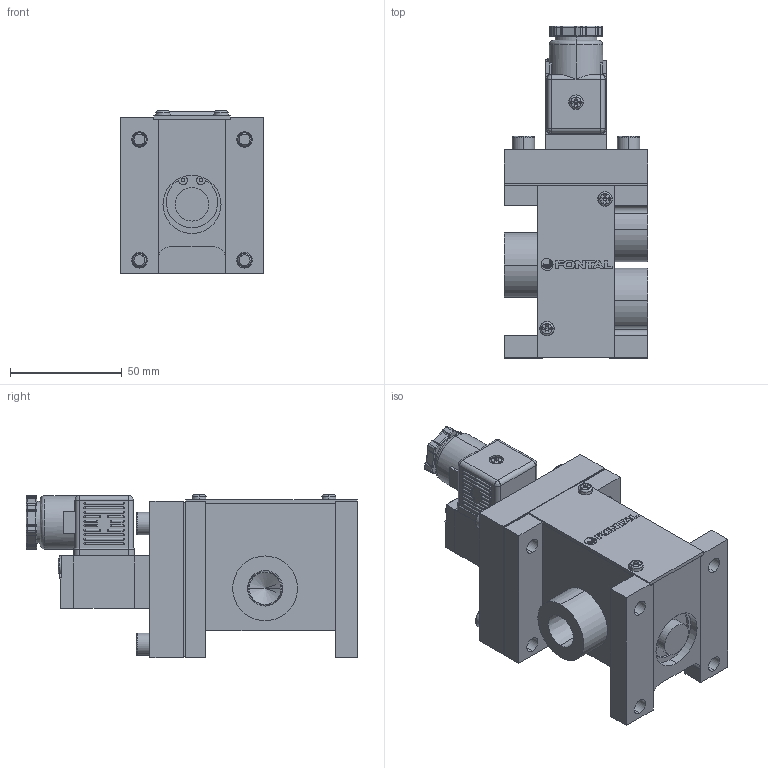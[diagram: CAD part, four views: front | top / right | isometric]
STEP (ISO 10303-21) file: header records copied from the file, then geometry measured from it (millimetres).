
FILE_DESCRIPTION (( 'STEP AP203' ), '1' );
FILE_NAME ('PMS2310#-03-#C#.STEP', '2016-03-09T08:17:11', ( 'Sam Lin' ), ( '' ), 'SwSTEP 2.0', 'SolidWorks 2013', '' );
FILE_SCHEMA (( 'CONFIG_CONTROL_DESIGN' ));
Length unit declared in the file: metre
Products named in the file (16): PM10-MARK; PMS2310#-03-#C#; PMS2310-6; PM06-C1_1; PMS2310-1; PM06-C2; PMS2310-2; PM06-C4_1; PMS2310-3; PM06-C6-M3_1; PMS2310-5; PM06-C5_1; ISO 4762 M6 x 20; PMS2308-5; PM06-C3-M4_1; PMS2308-6
Assembly tree (21 placements, depth 2):
  PMS2310#-03-#C#
    PMS2310-1
    PMS2310-2
    PMS2310-3
    PMS2310-5
    ISO 4762 M6 x 20  x4
    PM06-C3-M4_1  x3
    PM10-MARK
    PMS2310-6
    PM06-C1_1
    PM06-C2
    PM06-C4_1
    PM06-C6-M3_1  x2
    PM06-C5_1
    PMS2308-5
    PMS2308-6
Bounding box: 64 x 148.35 x 73.05 mm (x, y, z)
Volume: 335949.9 mm3; surface area: 86185.9 mm2
Topology: 27 solids, 27 shells, 891 faces, 2248 edges, 1318 vertices
Faces by surface type: plane 358, cylinder 264, bspline 198, cone 71
Entity records: 29438 total; most frequent: CARTESIAN_POINT 11864, ORIENTED_EDGE 3352, DIRECTION 3122, EDGE_CURVE 1676, AXIS2_PLACEMENT_3D 1152, VERTEX_POINT 1060, LINE 818, VECTOR 818
